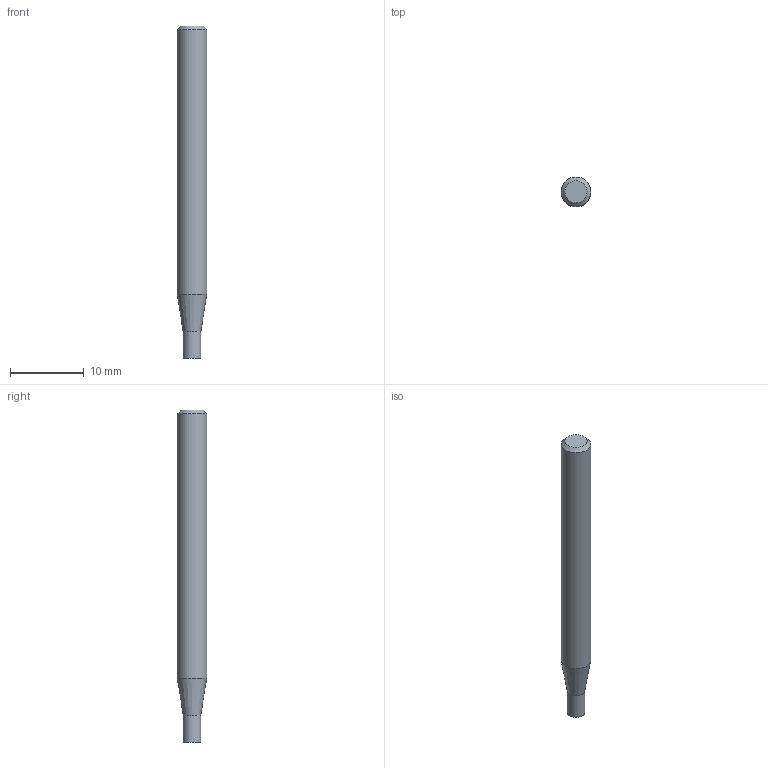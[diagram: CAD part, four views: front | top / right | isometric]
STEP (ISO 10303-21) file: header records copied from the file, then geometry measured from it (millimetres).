
FILE_DESCRIPTION((''),'2;1');
FILE_NAME('C:\Users\nsx150\AppData\Local\Temp\Mastercam 2021\98T1Q6BTT1\TEMP.step','2021-10-21T14:48:07',(''),(''),'STEP Write','Mastercam 2021 ... CNC Software, Inc.','');
FILE_SCHEMA(('AUTOMOTIVE_DESIGN'));
Length unit declared in the file: millimetre
Products named in the file (1): None
Bounding box: 4 x 4 x 45 mm (x, y, z)
Volume: 513.1 mm3; surface area: 557.5 mm2
Topology: 2 solids, 2 shells, 8 faces, 10 edges, 6 vertices
Faces by surface type: plane 4, cylinder 2, cone 2
Full cylindrical faces by diameter (mm): 2.4 x1, 4 x1
Entity records: 190 total; most frequent: DIRECTION 32, CARTESIAN_POINT 22, AXIS2_PLACEMENT_3D 16, ORIENTED_EDGE 12, EDGE_LOOP 12, STYLED_ITEM 11, ADVANCED_FACE 8, VERTEX_POINT 6
